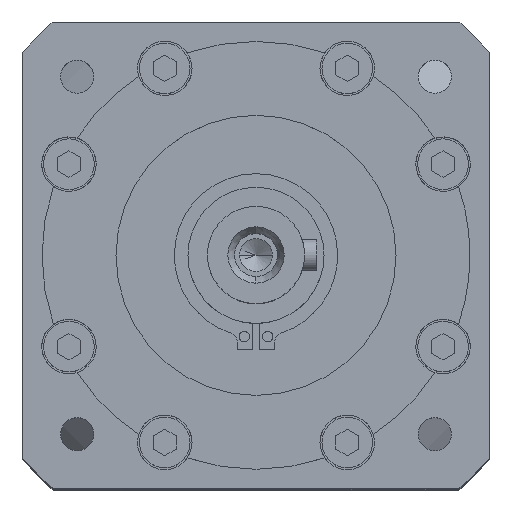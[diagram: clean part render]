
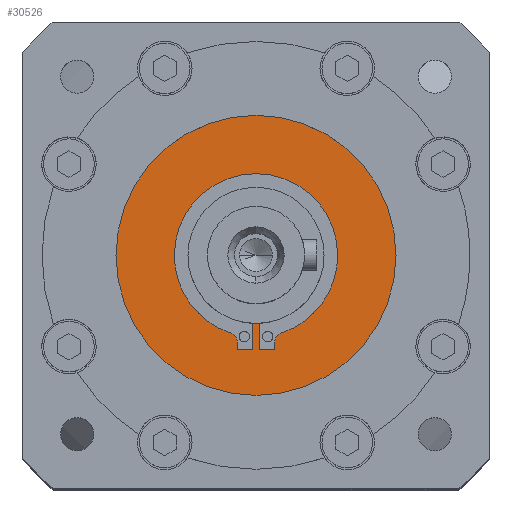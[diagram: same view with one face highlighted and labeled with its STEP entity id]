
A CAD part, top view. The second image highlights one B-rep face of the part: STEP entity #30526.
In plain terms, the highlighted planar face has unit normal (0, 0, 1).
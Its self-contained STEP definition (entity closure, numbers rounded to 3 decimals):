
#440 = LINE ( 'NONE', #33901, #25488 ) ;
#655 = VERTEX_POINT ( 'NONE', #33028 ) ;
#702 = VERTEX_POINT ( 'NONE', #18527 ) ;
#916 = CARTESIAN_POINT ( 'NONE',  ( 0., 0., -2.7 ) ) ;
#1127 = CIRCLE ( 'NONE', #42945, 36. ) ;
#1811 = EDGE_CURVE ( 'NONE', #17675, #23948, #27289, .T. ) ;
#1821 = CARTESIAN_POINT ( 'NONE',  ( 36., 0., -2.7 ) ) ;
#2162 = VERTEX_POINT ( 'NONE', #36319 ) ;
#2278 = ORIENTED_EDGE ( 'NONE', *, *, #19483, .F. ) ;
#2607 = CARTESIAN_POINT ( 'NONE',  ( 4.35, -24.279, -2.7 ) ) ;
#2954 = LINE ( 'NONE', #20902, #20780 ) ;
#3000 = DIRECTION ( 'NONE',  ( 0., -1., 0. ) ) ;
#3241 = VERTEX_POINT ( 'NONE', #13853 ) ;
#3960 = CARTESIAN_POINT ( 'NONE',  ( 0., 0., -2.7 ) ) ;
#4176 = ORIENTED_EDGE ( 'NONE', *, *, #42030, .F. ) ;
#4250 = ORIENTED_EDGE ( 'NONE', *, *, #10282, .F. ) ;
#4474 = EDGE_CURVE ( 'NONE', #30034, #44030, #24537, .T. ) ;
#4540 = DIRECTION ( 'NONE',  ( -1., 0., 0. ) ) ;
#4785 = DIRECTION ( 'NONE',  ( 0., 0., 1. ) ) ;
#4944 = DIRECTION ( 'NONE',  ( 1., 0., 0. ) ) ;
#5105 = CARTESIAN_POINT ( 'NONE',  ( 0., -24.279, -2.7 ) ) ;
#6258 = DIRECTION ( 'NONE',  ( 0., 0., 1. ) ) ;
#6961 = CARTESIAN_POINT ( 'NONE',  ( -4.35, -23.779, -2.7 ) ) ;
#7561 = DIRECTION ( 'NONE',  ( -1., 0., 0. ) ) ;
#8369 = CARTESIAN_POINT ( 'NONE',  ( 0., 0., -2.7 ) ) ;
#9770 = CIRCLE ( 'NONE', #10747, 2.5 ) ;
#9905 = AXIS2_PLACEMENT_3D ( 'NONE', #3960, #28861, #7561 ) ;
#10096 = EDGE_CURVE ( 'NONE', #24082, #2162, #46130, .T. ) ;
#10282 = EDGE_CURVE ( 'NONE', #655, #702, #22521, .T. ) ;
#10558 = DIRECTION ( 'NONE',  ( -1., 0., 0. ) ) ;
#10747 = AXIS2_PLACEMENT_3D ( 'NONE', #36135, #14719, #39770 ) ;
#10901 = EDGE_CURVE ( 'NONE', #2162, #37097, #11934, .T. ) ;
#11104 = ORIENTED_EDGE ( 'NONE', *, *, #10096, .F. ) ;
#11119 = AXIS2_PLACEMENT_3D ( 'NONE', #16024, #41117, #19602 ) ;
#11365 = DIRECTION ( 'NONE',  ( 0., -1., 0. ) ) ;
#11518 = DIRECTION ( 'NONE',  ( -1., 0., 0. ) ) ;
#11614 = DIRECTION ( 'NONE',  ( 0., 0., 1. ) ) ;
#11673 = CARTESIAN_POINT ( 'NONE',  ( 4.35, -23.779, -2.7 ) ) ;
#11934 = CIRCLE ( 'NONE', #12323, 21. ) ;
#12323 = AXIS2_PLACEMENT_3D ( 'NONE', #14860, #39924, #18417 ) ;
#12665 = VERTEX_POINT ( 'NONE', #20148 ) ;
#12807 = CARTESIAN_POINT ( 'NONE',  ( -4.85, -23.779, -2.7 ) ) ;
#12993 = EDGE_CURVE ( 'NONE', #39724, #25211, #1127, .T. ) ;
#13028 = CARTESIAN_POINT ( 'NONE',  ( -0.85, -24.279, -2.7 ) ) ;
#13153 = ORIENTED_EDGE ( 'NONE', *, *, #1811, .F. ) ;
#13564 = VECTOR ( 'NONE', #28481, 1000. ) ;
#13853 = CARTESIAN_POINT ( 'NONE',  ( 0.85, -24.279, -2.7 ) ) ;
#14270 = ORIENTED_EDGE ( 'NONE', *, *, #37189, .F. ) ;
#14569 = CIRCLE ( 'NONE', #35605, 36. ) ;
#14719 = DIRECTION ( 'NONE',  ( 0., 0., -1. ) ) ;
#14860 = CARTESIAN_POINT ( 'NONE',  ( 0., 0., -2.7 ) ) ;
#15114 = EDGE_LOOP ( 'NONE', ( #25401, #19354, #4250, #30452, #26965, #11104, #2278, #4176, #13153, #14270, #34303, #26765, #41799, #24339 ) ) ;
#15474 = CIRCLE ( 'NONE', #11119, 17.5 ) ;
#16024 = CARTESIAN_POINT ( 'NONE',  ( 0., 0., -2.7 ) ) ;
#16365 = LINE ( 'NONE', #29062, #46092 ) ;
#16664 = CARTESIAN_POINT ( 'NONE',  ( 4.85, -23.779, -2.7 ) ) ;
#17415 = VERTEX_POINT ( 'NONE', #32745 ) ;
#17675 = VERTEX_POINT ( 'NONE', #2607 ) ;
#18417 = DIRECTION ( 'NONE',  ( -1., 0., 0. ) ) ;
#18527 = CARTESIAN_POINT ( 'NONE',  ( -4.85, -22.321, -2.7 ) ) ;
#18926 = EDGE_CURVE ( 'NONE', #702, #30034, #16365, .T. ) ;
#19085 = DIRECTION ( 'NONE',  ( 0., 0., -1. ) ) ;
#19225 = LINE ( 'NONE', #5105, #45614 ) ;
#19354 = ORIENTED_EDGE ( 'NONE', *, *, #18926, .F. ) ;
#19483 = EDGE_CURVE ( 'NONE', #12665, #24082, #9770, .T. ) ;
#19602 = DIRECTION ( 'NONE',  ( -1., 0., 0. ) ) ;
#20148 = CARTESIAN_POINT ( 'NONE',  ( 4.85, -22.321, -2.7 ) ) ;
#20235 = DIRECTION ( 'NONE',  ( 0., 0., -1. ) ) ;
#20780 = VECTOR ( 'NONE', #3000, 1000. ) ;
#20899 = AXIS2_PLACEMENT_3D ( 'NONE', #8369, #19085, #44199 ) ;
#20902 = CARTESIAN_POINT ( 'NONE',  ( 0.85, 0., -2.7 ) ) ;
#21206 = AXIS2_PLACEMENT_3D ( 'NONE', #41740, #20235, #45343 ) ;
#21734 = AXIS2_PLACEMENT_3D ( 'NONE', #11673, #11614, #11518 ) ;
#21804 = AXIS2_PLACEMENT_3D ( 'NONE', #6961, #31902, #10558 ) ;
#22521 = CIRCLE ( 'NONE', #21206, 2.5 ) ;
#23948 = VERTEX_POINT ( 'NONE', #16664 ) ;
#24028 = FACE_OUTER_BOUND ( 'NONE', #32497, .T. ) ;
#24082 = VERTEX_POINT ( 'NONE', #35271 ) ;
#24339 = ORIENTED_EDGE ( 'NONE', *, *, #33818, .F. ) ;
#24537 = CIRCLE ( 'NONE', #21804, 0.5 ) ;
#24823 = CARTESIAN_POINT ( 'NONE',  ( -36., 0., -2.7 ) ) ;
#24845 = DIRECTION ( 'NONE',  ( 1., 0., 0. ) ) ;
#25211 = VERTEX_POINT ( 'NONE', #1821 ) ;
#25401 = ORIENTED_EDGE ( 'NONE', *, *, #4474, .F. ) ;
#25488 = VECTOR ( 'NONE', #26650, 1000. ) ;
#25836 = DIRECTION ( 'NONE',  ( 0., 0., 1. ) ) ;
#26090 = CARTESIAN_POINT ( 'NONE',  ( 0., 0., -2.7 ) ) ;
#26650 = DIRECTION ( 'NONE',  ( 0., 1., 0. ) ) ;
#26765 = ORIENTED_EDGE ( 'NONE', *, *, #31545, .F. ) ;
#26965 = ORIENTED_EDGE ( 'NONE', *, *, #10901, .F. ) ;
#27289 = CIRCLE ( 'NONE', #21734, 0.5 ) ;
#27573 = CARTESIAN_POINT ( 'NONE',  ( 0., 0., -2.7 ) ) ;
#28189 = EDGE_CURVE ( 'NONE', #43906, #3241, #2954, .T. ) ;
#28460 = VECTOR ( 'NONE', #24845, 1000. ) ;
#28481 = DIRECTION ( 'NONE',  ( 0., 1., 0. ) ) ;
#28861 = DIRECTION ( 'NONE',  ( 0., 0., 1. ) ) ;
#29062 = CARTESIAN_POINT ( 'NONE',  ( -4.85, 0., -2.7 ) ) ;
#29696 = DIRECTION ( 'NONE',  ( 1., 0., 0. ) ) ;
#30034 = VERTEX_POINT ( 'NONE', #12807 ) ;
#30452 = ORIENTED_EDGE ( 'NONE', *, *, #37922, .F. ) ;
#30526 = ADVANCED_FACE ( 'NONE', ( #24028, #33604 ), #44053, .F. ) ;
#31057 = EDGE_CURVE ( 'NONE', #46448, #17415, #440, .T. ) ;
#31195 = DIRECTION ( 'NONE',  ( 1., 0., 0. ) ) ;
#31314 = CARTESIAN_POINT ( 'NONE',  ( -21., 0., -2.7 ) ) ;
#31545 = EDGE_CURVE ( 'NONE', #17415, #43906, #15474, .T. ) ;
#31902 = DIRECTION ( 'NONE',  ( 0., 0., 1. ) ) ;
#31936 = CARTESIAN_POINT ( 'NONE',  ( 0., -24.279, -2.7 ) ) ;
#32497 = EDGE_LOOP ( 'NONE', ( #45398, #39005 ) ) ;
#32530 = LINE ( 'NONE', #46456, #13564 ) ;
#32745 = CARTESIAN_POINT ( 'NONE',  ( -0.85, -17.479, -2.7 ) ) ;
#33028 = CARTESIAN_POINT ( 'NONE',  ( -6.568, -19.946, -2.7 ) ) ;
#33604 = FACE_BOUND ( 'NONE', #15114, .T. ) ;
#33818 = EDGE_CURVE ( 'NONE', #44030, #46448, #19225, .T. ) ;
#33901 = CARTESIAN_POINT ( 'NONE',  ( -0.85, 0., -2.7 ) ) ;
#34102 = CARTESIAN_POINT ( 'NONE',  ( 0.85, -17.479, -2.7 ) ) ;
#34303 = ORIENTED_EDGE ( 'NONE', *, *, #28189, .F. ) ;
#35271 = CARTESIAN_POINT ( 'NONE',  ( 6.568, -19.946, -2.7 ) ) ;
#35605 = AXIS2_PLACEMENT_3D ( 'NONE', #26090, #4785, #29696 ) ;
#36135 = CARTESIAN_POINT ( 'NONE',  ( 7.35, -22.321, -2.7 ) ) ;
#36319 = CARTESIAN_POINT ( 'NONE',  ( 21., 0., -2.7 ) ) ;
#37097 = VERTEX_POINT ( 'NONE', #31314 ) ;
#37189 = EDGE_CURVE ( 'NONE', #3241, #17675, #38094, .T. ) ;
#37396 = EDGE_CURVE ( 'NONE', #25211, #39724, #14569, .T. ) ;
#37922 = EDGE_CURVE ( 'NONE', #37097, #655, #39186, .T. ) ;
#38094 = LINE ( 'NONE', #31936, #28460 ) ;
#39005 = ORIENTED_EDGE ( 'NONE', *, *, #12993, .T. ) ;
#39186 = CIRCLE ( 'NONE', #9905, 21. ) ;
#39724 = VERTEX_POINT ( 'NONE', #24823 ) ;
#39770 = DIRECTION ( 'NONE',  ( -1., 0., 0. ) ) ;
#39924 = DIRECTION ( 'NONE',  ( 0., 0., 1. ) ) ;
#41117 = DIRECTION ( 'NONE',  ( 0., 0., 1. ) ) ;
#41740 = CARTESIAN_POINT ( 'NONE',  ( -7.35, -22.321, -2.7 ) ) ;
#41799 = ORIENTED_EDGE ( 'NONE', *, *, #31057, .F. ) ;
#42030 = EDGE_CURVE ( 'NONE', #23948, #12665, #32530, .T. ) ;
#42945 = AXIS2_PLACEMENT_3D ( 'NONE', #27573, #6258, #31195 ) ;
#43042 = CARTESIAN_POINT ( 'NONE',  ( -4.35, -24.279, -2.7 ) ) ;
#43777 = AXIS2_PLACEMENT_3D ( 'NONE', #916, #25836, #4540 ) ;
#43906 = VERTEX_POINT ( 'NONE', #34102 ) ;
#44030 = VERTEX_POINT ( 'NONE', #43042 ) ;
#44053 = PLANE ( 'NONE',  #20899 ) ;
#44199 = DIRECTION ( 'NONE',  ( -1., 0., 0. ) ) ;
#45343 = DIRECTION ( 'NONE',  ( -1., 0., 0. ) ) ;
#45398 = ORIENTED_EDGE ( 'NONE', *, *, #37396, .T. ) ;
#45614 = VECTOR ( 'NONE', #4944, 1000. ) ;
#46092 = VECTOR ( 'NONE', #11365, 1000. ) ;
#46130 = CIRCLE ( 'NONE', #43777, 21. ) ;
#46448 = VERTEX_POINT ( 'NONE', #13028 ) ;
#46456 = CARTESIAN_POINT ( 'NONE',  ( 4.85, 0., -2.7 ) ) ;
